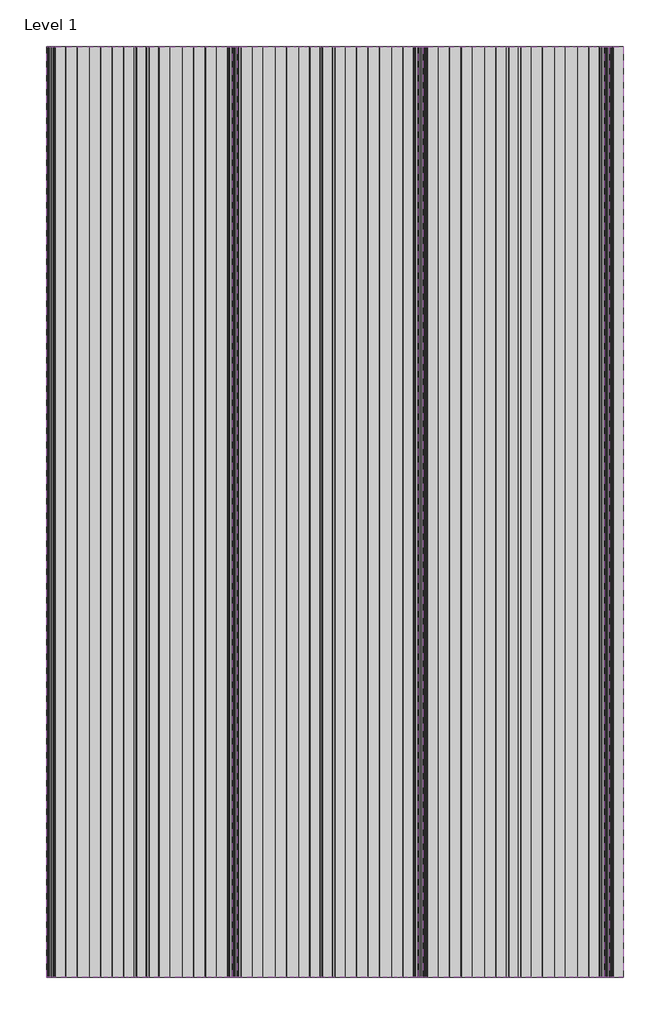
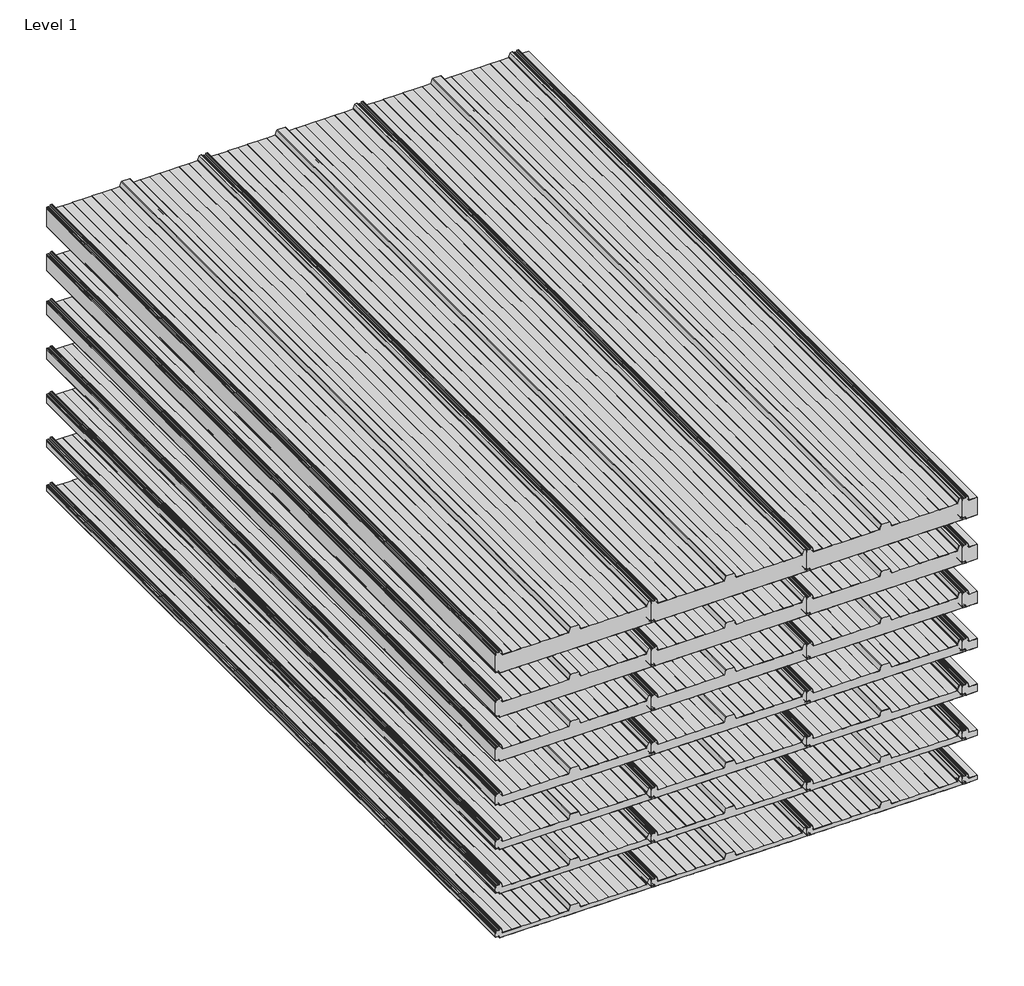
# One storey: 28 plates.
"""IFC4 building model written with IfcOpenShell, lengths in millimetres."""

from ifc_helpers import new_model, si_unit, origin, place, context, project, spatial, transform, mapped, element, save
from components import p3g_curtain_panel_2ee592ca, p3g_curtain_panel_c1845356, p3g_curtain_panel_b13fab03, p3g_curtain_panel_1b50292b, p3g_curtain_panel_7adaefb9, p3g_curtain_panel_d3526fd2, p3g_curtain_panel_7f97df67, p3g_curtain_panel_511affbb, p3g_curtain_panel_8e46e326, p3g_curtain_panel_cf97b663, p3g_curtain_panel_d6166cbf, p3g_curtain_panel_651e70bc, p3g_curtain_panel_ad562564, p3g_curtain_panel_7d43ae7f

model = new_model("IFC4")

# Units and contexts
model_context = context("Model", 3, world=origin())
ifc_project = project(units=[si_unit("LENGTHUNIT", "METRE", prefix="MILLI")], contexts=[model_context])

# Site, building, storey
site = spatial("IfcSite", under=ifc_project)
building = spatial("IfcBuilding", under=site)
storey = spatial("IfcBuildingStorey", under=building, Name="Level 1", Elevation=0.0)

# Plates
placement = place(None, origin())
p3g_curtain_panel_shape = p3g_curtain_panel_2ee592ca(model_context)
element("IfcPlate", 1, ObjectType="P3G_Curtain-Panel : ACH_P3G_3-Rib-Roof-Panel_30M", at=placement, inside=storey, context=model_context, shape_type="MappedRepresentation", body=[
    mapped(p3g_curtain_panel_shape, transform((-11518.7651938, -3830.5491567, 500.0), x_axis=(1.0, 0.0, 0.0), y_axis=(0.0, 0.0, -1.0), z_axis=(0.0, 1.0, 0.0))),
])
element("IfcPlate", 2, ObjectType="P3G_Curtain-Panel : ACH_P3G_3-Rib-Roof-Panel_30M", at=placement, inside=storey, context=model_context, shape_type="MappedRepresentation", body=[
    mapped(p3g_curtain_panel_shape, transform((-10518.7651938, -3830.5491567, 500.0), x_axis=(1.0, 0.0, 0.0), y_axis=(0.0, 0.0, -1.0), z_axis=(0.0, 1.0, 0.0))),
])
element("IfcPlate", 3, ObjectType="P3G_Curtain-Panel : ACH_P3G_3-Rib-Roof-Panel_30M", at=placement, inside=storey, context=model_context, shape_type="MappedRepresentation", body=[
    mapped(p3g_curtain_panel_shape, transform((-9518.7651938, -3830.5491567, 500.0), x_axis=(1.0, 0.0, 0.0), y_axis=(0.0, 0.0, -1.0), z_axis=(0.0, 1.0, 0.0))),
])
p3g_curtain_panel_2_shape = p3g_curtain_panel_c1845356(model_context)
element("IfcPlate", 4, ObjectType="P3G_Curtain-Panel : ACH_P3G_3-Rib-Roof-Panel_30M", at=placement, inside=storey, context=model_context, shape_type="MappedRepresentation", body=[
    mapped(p3g_curtain_panel_2_shape, transform((-8968.7651938, -3830.5491567, 500.0), x_axis=(1.0, 0.0, 0.0), y_axis=(0.0, 0.0, -1.0), z_axis=(0.0, 1.0, 0.0))),
])
p3g_curtain_panel_3_shape = p3g_curtain_panel_b13fab03(model_context)
element("IfcPlate", 5, ObjectType="P3G_Curtain-Panel : ACH_P3G_3-Rib-Roof-Panel_40M", at=placement, inside=storey, context=model_context, shape_type="MappedRepresentation", body=[
    mapped(p3g_curtain_panel_3_shape, transform((-11518.7651938, -3830.5491567, 800.0), x_axis=(1.0, 0.0, 0.0), y_axis=(0.0, 0.0, -1.0), z_axis=(0.0, 1.0, 0.0))),
])
element("IfcPlate", 6, ObjectType="P3G_Curtain-Panel : ACH_P3G_3-Rib-Roof-Panel_40M", at=placement, inside=storey, context=model_context, shape_type="MappedRepresentation", body=[
    mapped(p3g_curtain_panel_3_shape, transform((-10518.7651938, -3830.5491567, 800.0), x_axis=(1.0, 0.0, 0.0), y_axis=(0.0, 0.0, -1.0), z_axis=(0.0, 1.0, 0.0))),
])
element("IfcPlate", 7, ObjectType="P3G_Curtain-Panel : ACH_P3G_3-Rib-Roof-Panel_40M", at=placement, inside=storey, context=model_context, shape_type="MappedRepresentation", body=[
    mapped(p3g_curtain_panel_3_shape, transform((-9518.7651938, -3830.5491567, 800.0), x_axis=(1.0, 0.0, 0.0), y_axis=(0.0, 0.0, -1.0), z_axis=(0.0, 1.0, 0.0))),
])
p3g_curtain_panel_4_shape = p3g_curtain_panel_1b50292b(model_context)
element("IfcPlate", 8, ObjectType="P3G_Curtain-Panel : ACH_P3G_3-Rib-Roof-Panel_40M", at=placement, inside=storey, context=model_context, shape_type="MappedRepresentation", body=[
    mapped(p3g_curtain_panel_4_shape, transform((-8968.7651938, -3830.5491567, 800.0), x_axis=(1.0, 0.0, 0.0), y_axis=(0.0, 0.0, -1.0), z_axis=(0.0, 1.0, 0.0))),
])
p3g_curtain_panel_5_shape = p3g_curtain_panel_7adaefb9(model_context)
element("IfcPlate", 9, ObjectType="P3G_Curtain-Panel : ACH_P3G_3-Rib-Roof-Panel_50M", at=placement, inside=storey, context=model_context, shape_type="MappedRepresentation", body=[
    mapped(p3g_curtain_panel_5_shape, transform((-11518.7651938, -3830.5491567, 1100.0), x_axis=(1.0, 0.0, 0.0), y_axis=(0.0, 0.0, -1.0), z_axis=(0.0, 1.0, 0.0))),
])
element("IfcPlate", 10, ObjectType="P3G_Curtain-Panel : ACH_P3G_3-Rib-Roof-Panel_50M", at=placement, inside=storey, context=model_context, shape_type="MappedRepresentation", body=[
    mapped(p3g_curtain_panel_5_shape, transform((-10518.7651938, -3830.5491567, 1100.0), x_axis=(1.0, 0.0, 0.0), y_axis=(0.0, 0.0, -1.0), z_axis=(0.0, 1.0, 0.0))),
])
element("IfcPlate", 11, ObjectType="P3G_Curtain-Panel : ACH_P3G_3-Rib-Roof-Panel_50M", at=placement, inside=storey, context=model_context, shape_type="MappedRepresentation", body=[
    mapped(p3g_curtain_panel_5_shape, transform((-9518.7651938, -3830.5491567, 1100.0), x_axis=(1.0, 0.0, 0.0), y_axis=(0.0, 0.0, -1.0), z_axis=(0.0, 1.0, 0.0))),
])
p3g_curtain_panel_6_shape = p3g_curtain_panel_d3526fd2(model_context)
element("IfcPlate", 12, ObjectType="P3G_Curtain-Panel : ACH_P3G_3-Rib-Roof-Panel_50M", at=placement, inside=storey, context=model_context, shape_type="MappedRepresentation", body=[
    mapped(p3g_curtain_panel_6_shape, transform((-8968.7651938, -3830.5491567, 1100.0), x_axis=(1.0, 0.0, 0.0), y_axis=(0.0, 0.0, -1.0), z_axis=(0.0, 1.0, 0.0))),
])
p3g_curtain_panel_7_shape = p3g_curtain_panel_7f97df67(model_context)
element("IfcPlate", 13, ObjectType="P3G_Curtain-Panel : ACH_P3G_3-Rib-Roof-Panel_60M", at=placement, inside=storey, context=model_context, shape_type="MappedRepresentation", body=[
    mapped(p3g_curtain_panel_7_shape, transform((-11518.7651938, -3830.5491567, 1400.0), x_axis=(1.0, 0.0, 0.0), y_axis=(0.0, 0.0, -1.0), z_axis=(0.0, 1.0, 0.0))),
])
element("IfcPlate", 14, ObjectType="P3G_Curtain-Panel : ACH_P3G_3-Rib-Roof-Panel_60M", at=placement, inside=storey, context=model_context, shape_type="MappedRepresentation", body=[
    mapped(p3g_curtain_panel_7_shape, transform((-10518.7651938, -3830.5491567, 1400.0), x_axis=(1.0, 0.0, 0.0), y_axis=(0.0, 0.0, -1.0), z_axis=(0.0, 1.0, 0.0))),
])
element("IfcPlate", 15, ObjectType="P3G_Curtain-Panel : ACH_P3G_3-Rib-Roof-Panel_60M", at=placement, inside=storey, context=model_context, shape_type="MappedRepresentation", body=[
    mapped(p3g_curtain_panel_7_shape, transform((-9518.7651938, -3830.5491567, 1400.0), x_axis=(1.0, 0.0, 0.0), y_axis=(0.0, 0.0, -1.0), z_axis=(0.0, 1.0, 0.0))),
])
p3g_curtain_panel_8_shape = p3g_curtain_panel_511affbb(model_context)
element("IfcPlate", 16, ObjectType="P3G_Curtain-Panel : ACH_P3G_3-Rib-Roof-Panel_60M", at=placement, inside=storey, context=model_context, shape_type="MappedRepresentation", body=[
    mapped(p3g_curtain_panel_8_shape, transform((-8968.7651938, -3830.5491567, 1400.0), x_axis=(1.0, 0.0, 0.0), y_axis=(0.0, 0.0, -1.0), z_axis=(0.0, 1.0, 0.0))),
])
p3g_curtain_panel_9_shape = p3g_curtain_panel_8e46e326(model_context)
element("IfcPlate", 17, ObjectType="P3G_Curtain-Panel : ACH_P3G_3-Rib-Roof-Panel_80M", at=placement, inside=storey, context=model_context, shape_type="MappedRepresentation", body=[
    mapped(p3g_curtain_panel_9_shape, transform((-11518.7651938, -3830.5491567, 1700.0), x_axis=(1.0, 0.0, 0.0), y_axis=(0.0, 0.0, -1.0), z_axis=(0.0, 1.0, 0.0))),
])
element("IfcPlate", 18, ObjectType="P3G_Curtain-Panel : ACH_P3G_3-Rib-Roof-Panel_80M", at=placement, inside=storey, context=model_context, shape_type="MappedRepresentation", body=[
    mapped(p3g_curtain_panel_9_shape, transform((-10518.7651938, -3830.5491567, 1700.0), x_axis=(1.0, 0.0, 0.0), y_axis=(0.0, 0.0, -1.0), z_axis=(0.0, 1.0, 0.0))),
])
element("IfcPlate", 19, ObjectType="P3G_Curtain-Panel : ACH_P3G_3-Rib-Roof-Panel_80M", at=placement, inside=storey, context=model_context, shape_type="MappedRepresentation", body=[
    mapped(p3g_curtain_panel_9_shape, transform((-9518.7651938, -3830.5491567, 1700.0), x_axis=(1.0, 0.0, 0.0), y_axis=(0.0, 0.0, -1.0), z_axis=(0.0, 1.0, 0.0))),
])
p3g_curtain_panel_10_shape = p3g_curtain_panel_cf97b663(model_context)
element("IfcPlate", 20, ObjectType="P3G_Curtain-Panel : ACH_P3G_3-Rib-Roof-Panel_80M", at=placement, inside=storey, context=model_context, shape_type="MappedRepresentation", body=[
    mapped(p3g_curtain_panel_10_shape, transform((-8968.7651938, -3830.5491567, 1700.0), x_axis=(1.0, 0.0, 0.0), y_axis=(0.0, 0.0, -1.0), z_axis=(0.0, 1.0, 0.0))),
])
p3g_curtain_panel_11_shape = p3g_curtain_panel_d6166cbf(model_context)
element("IfcPlate", 21, ObjectType="P3G_Curtain-Panel : ACH_P3G_3-Rib-Roof-Panel_100M", at=placement, inside=storey, context=model_context, shape_type="MappedRepresentation", body=[
    mapped(p3g_curtain_panel_11_shape, transform((-11518.7651938, -3830.5491567, 2000.0), x_axis=(1.0, 0.0, 0.0), y_axis=(0.0, 0.0, -1.0), z_axis=(0.0, 1.0, 0.0))),
])
element("IfcPlate", 22, ObjectType="P3G_Curtain-Panel : ACH_P3G_3-Rib-Roof-Panel_100M", at=placement, inside=storey, context=model_context, shape_type="MappedRepresentation", body=[
    mapped(p3g_curtain_panel_11_shape, transform((-10518.7651938, -3830.5491567, 2000.0), x_axis=(1.0, 0.0, 0.0), y_axis=(0.0, 0.0, -1.0), z_axis=(0.0, 1.0, 0.0))),
])
element("IfcPlate", 23, ObjectType="P3G_Curtain-Panel : ACH_P3G_3-Rib-Roof-Panel_100M", at=placement, inside=storey, context=model_context, shape_type="MappedRepresentation", body=[
    mapped(p3g_curtain_panel_11_shape, transform((-9518.7651938, -3830.5491567, 2000.0), x_axis=(1.0, 0.0, 0.0), y_axis=(0.0, 0.0, -1.0), z_axis=(0.0, 1.0, 0.0))),
])
p3g_curtain_panel_12_shape = p3g_curtain_panel_651e70bc(model_context)
element("IfcPlate", 24, ObjectType="P3G_Curtain-Panel : ACH_P3G_3-Rib-Roof-Panel_100M", at=placement, inside=storey, context=model_context, shape_type="MappedRepresentation", body=[
    mapped(p3g_curtain_panel_12_shape, transform((-8968.7651938, -3830.5491567, 2000.0), x_axis=(1.0, 0.0, 0.0), y_axis=(0.0, 0.0, -1.0), z_axis=(0.0, 1.0, 0.0))),
])
p3g_curtain_panel_13_shape = p3g_curtain_panel_ad562564(model_context)
element("IfcPlate", 25, ObjectType="P3G_Curtain-Panel : ACH_P3G_3-Rib-Roof-Panel_120M", at=placement, inside=storey, context=model_context, shape_type="MappedRepresentation", body=[
    mapped(p3g_curtain_panel_13_shape, transform((-11518.7651938, -3830.5491567, 2300.0), x_axis=(1.0, 0.0, 0.0), y_axis=(0.0, 0.0, -1.0), z_axis=(0.0, 1.0, 0.0))),
])
element("IfcPlate", 26, ObjectType="P3G_Curtain-Panel : ACH_P3G_3-Rib-Roof-Panel_120M", at=placement, inside=storey, context=model_context, shape_type="MappedRepresentation", body=[
    mapped(p3g_curtain_panel_13_shape, transform((-10518.7651938, -3830.5491567, 2300.0), x_axis=(1.0, 0.0, 0.0), y_axis=(0.0, 0.0, -1.0), z_axis=(0.0, 1.0, 0.0))),
])
element("IfcPlate", 27, ObjectType="P3G_Curtain-Panel : ACH_P3G_3-Rib-Roof-Panel_120M", at=placement, inside=storey, context=model_context, shape_type="MappedRepresentation", body=[
    mapped(p3g_curtain_panel_13_shape, transform((-9518.7651938, -3830.5491567, 2300.0), x_axis=(1.0, 0.0, 0.0), y_axis=(0.0, 0.0, -1.0), z_axis=(0.0, 1.0, 0.0))),
])
p3g_curtain_panel_14_shape = p3g_curtain_panel_7d43ae7f(model_context)
element("IfcPlate", 28, ObjectType="P3G_Curtain-Panel : ACH_P3G_3-Rib-Roof-Panel_120M", at=placement, inside=storey, context=model_context, shape_type="MappedRepresentation", body=[
    mapped(p3g_curtain_panel_14_shape, transform((-8968.7651938, -3830.5491567, 2300.0), x_axis=(1.0, 0.0, 0.0), y_axis=(0.0, 0.0, -1.0), z_axis=(0.0, 1.0, 0.0))),
])

save(model, "model.ifc")
